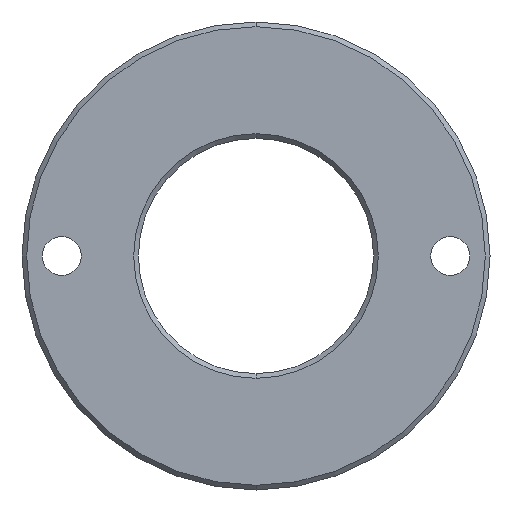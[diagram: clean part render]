
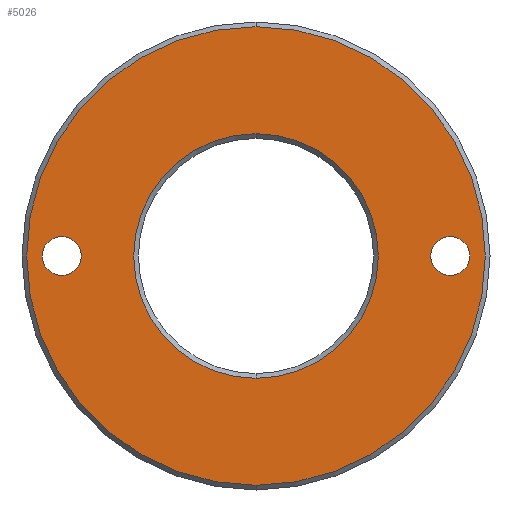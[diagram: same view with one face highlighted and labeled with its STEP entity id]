
A CAD part, front view. The second image highlights one B-rep face of the part: STEP entity #5026.
In plain terms, the highlighted planar face has unit normal (0, -1, 0).
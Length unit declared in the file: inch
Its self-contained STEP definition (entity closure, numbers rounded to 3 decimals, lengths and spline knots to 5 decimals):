
#152 = EDGE_CURVE ( 'NONE', #440, #5295, #1358, .T. ) ;
#280 = CARTESIAN_POINT ( 'NONE',  ( 1.65625, 0., -0.166 ) ) ;
#407 = VERTEX_POINT ( 'NONE', #280 ) ;
#440 = VERTEX_POINT ( 'NONE', #12080 ) ;
#546 = DIRECTION ( 'NONE',  ( 0., 1., 0. ) ) ;
#587 = EDGE_CURVE ( 'NONE', #3160, #407, #5920, .T. ) ;
#729 = DIRECTION ( 'NONE',  ( 1., 0., 0. ) ) ;
#913 = EDGE_CURVE ( 'NONE', #7420, #4902, #7001, .T. ) ;
#1109 = EDGE_LOOP ( 'NONE', ( #2437, #8805 ) ) ;
#1115 = DIRECTION ( 'NONE',  ( 0., 0., -1. ) ) ;
#1301 = CARTESIAN_POINT ( 'NONE',  ( 0., 0., 0. ) ) ;
#1358 = CIRCLE ( 'NONE', #3666, 1.0425 ) ;
#1485 = CIRCLE ( 'NONE', #3949, 0.166 ) ;
#1657 = DIRECTION ( 'NONE',  ( 0., 1., 0. ) ) ;
#1846 = FACE_BOUND ( 'NONE', #12685, .T. ) ;
#1990 = CARTESIAN_POINT ( 'NONE',  ( 0., 0., 1.955 ) ) ;
#2032 = DIRECTION ( 'NONE',  ( 0., 0., 1. ) ) ;
#2137 = CARTESIAN_POINT ( 'NONE',  ( -1.65625, 0., 0. ) ) ;
#2324 = CARTESIAN_POINT ( 'NONE',  ( -1.65625, 0., 0.166 ) ) ;
#2343 = AXIS2_PLACEMENT_3D ( 'NONE', #4854, #6592, #8729 ) ;
#2437 = ORIENTED_EDGE ( 'NONE', *, *, #913, .T. ) ;
#2471 = DIRECTION ( 'NONE',  ( 0., 0., 1. ) ) ;
#2532 = VERTEX_POINT ( 'NONE', #1990 ) ;
#2601 = DIRECTION ( 'NONE',  ( 0., 0., 1. ) ) ;
#2672 = AXIS2_PLACEMENT_3D ( 'NONE', #3599, #1657, #2601 ) ;
#2928 = EDGE_LOOP ( 'NONE', ( #4640, #8916 ) ) ;
#3019 = EDGE_LOOP ( 'NONE', ( #9810, #8904 ) ) ;
#3074 = AXIS2_PLACEMENT_3D ( 'NONE', #2137, #10071, #1115 ) ;
#3160 = VERTEX_POINT ( 'NONE', #7649 ) ;
#3578 = CARTESIAN_POINT ( 'NONE',  ( 0., 0., 0. ) ) ;
#3599 = CARTESIAN_POINT ( 'NONE',  ( 1.65625, 0., 0. ) ) ;
#3638 = EDGE_CURVE ( 'NONE', #4053, #2532, #11735, .T. ) ;
#3666 = AXIS2_PLACEMENT_3D ( 'NONE', #8459, #546, #7480 ) ;
#3949 = AXIS2_PLACEMENT_3D ( 'NONE', #8526, #8569, #10486 ) ;
#3956 = EDGE_CURVE ( 'NONE', #5295, #440, #8174, .T. ) ;
#4053 = VERTEX_POINT ( 'NONE', #10841 ) ;
#4638 = DIRECTION ( 'NONE',  ( 0., 1., 0. ) ) ;
#4640 = ORIENTED_EDGE ( 'NONE', *, *, #6846, .T. ) ;
#4660 = CARTESIAN_POINT ( 'NONE',  ( 0., 0., 0. ) ) ;
#4854 = CARTESIAN_POINT ( 'NONE',  ( 1.65625, 0., 0. ) ) ;
#4902 = VERTEX_POINT ( 'NONE', #2324 ) ;
#5026 = ADVANCED_FACE ( 'NONE', ( #11572, #1846, #9254, #12185 ), #5608, .F. ) ;
#5295 = VERTEX_POINT ( 'NONE', #10012 ) ;
#5608 = PLANE ( 'NONE',  #5825 ) ;
#5825 = AXIS2_PLACEMENT_3D ( 'NONE', #3578, #4638, #729 ) ;
#5920 = CIRCLE ( 'NONE', #2343, 0.166 ) ;
#6429 = CIRCLE ( 'NONE', #2672, 0.166 ) ;
#6592 = DIRECTION ( 'NONE',  ( 0., 1., 0. ) ) ;
#6846 = EDGE_CURVE ( 'NONE', #2532, #4053, #9691, .T. ) ;
#6889 = ORIENTED_EDGE ( 'NONE', *, *, #152, .T. ) ;
#6974 = AXIS2_PLACEMENT_3D ( 'NONE', #4660, #12460, #2471 ) ;
#7001 = CIRCLE ( 'NONE', #3074, 0.166 ) ;
#7420 = VERTEX_POINT ( 'NONE', #11426 ) ;
#7480 = DIRECTION ( 'NONE',  ( 0., 0., 1. ) ) ;
#7649 = CARTESIAN_POINT ( 'NONE',  ( 1.65625, 0., 0.166 ) ) ;
#8174 = CIRCLE ( 'NONE', #9769, 1.0425 ) ;
#8317 = DIRECTION ( 'NONE',  ( 0., -1., 0. ) ) ;
#8459 = CARTESIAN_POINT ( 'NONE',  ( 0., 0., 0. ) ) ;
#8526 = CARTESIAN_POINT ( 'NONE',  ( -1.65625, 0., 0. ) ) ;
#8569 = DIRECTION ( 'NONE',  ( 0., 1., 0. ) ) ;
#8729 = DIRECTION ( 'NONE',  ( 0., 0., 1. ) ) ;
#8805 = ORIENTED_EDGE ( 'NONE', *, *, #11963, .T. ) ;
#8840 = CARTESIAN_POINT ( 'NONE',  ( 0., 0., 0. ) ) ;
#8904 = ORIENTED_EDGE ( 'NONE', *, *, #587, .T. ) ;
#8916 = ORIENTED_EDGE ( 'NONE', *, *, #3638, .T. ) ;
#9254 = FACE_BOUND ( 'NONE', #3019, .T. ) ;
#9691 = CIRCLE ( 'NONE', #11276, 1.955 ) ;
#9769 = AXIS2_PLACEMENT_3D ( 'NONE', #8840, #12716, #2032 ) ;
#9810 = ORIENTED_EDGE ( 'NONE', *, *, #9814, .T. ) ;
#9814 = EDGE_CURVE ( 'NONE', #407, #3160, #6429, .T. ) ;
#10012 = CARTESIAN_POINT ( 'NONE',  ( 0., 0., -1.0425 ) ) ;
#10071 = DIRECTION ( 'NONE',  ( 0., 1., 0. ) ) ;
#10486 = DIRECTION ( 'NONE',  ( 0., 0., -1. ) ) ;
#10841 = CARTESIAN_POINT ( 'NONE',  ( 0., 0., -1.955 ) ) ;
#11276 = AXIS2_PLACEMENT_3D ( 'NONE', #1301, #8317, #12282 ) ;
#11426 = CARTESIAN_POINT ( 'NONE',  ( -1.65625, 0., -0.166 ) ) ;
#11572 = FACE_OUTER_BOUND ( 'NONE', #2928, .T. ) ;
#11735 = CIRCLE ( 'NONE', #6974, 1.955 ) ;
#11963 = EDGE_CURVE ( 'NONE', #4902, #7420, #1485, .T. ) ;
#12080 = CARTESIAN_POINT ( 'NONE',  ( 0., 0., 1.0425 ) ) ;
#12085 = ORIENTED_EDGE ( 'NONE', *, *, #3956, .T. ) ;
#12185 = FACE_BOUND ( 'NONE', #1109, .T. ) ;
#12282 = DIRECTION ( 'NONE',  ( 0., 0., 1. ) ) ;
#12460 = DIRECTION ( 'NONE',  ( 0., -1., 0. ) ) ;
#12685 = EDGE_LOOP ( 'NONE', ( #12085, #6889 ) ) ;
#12716 = DIRECTION ( 'NONE',  ( 0., 1., 0. ) ) ;
